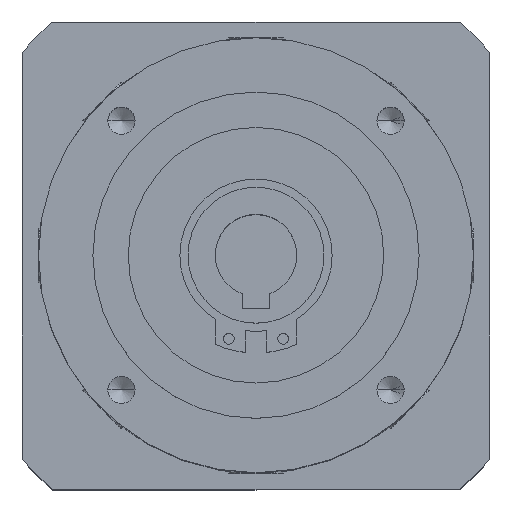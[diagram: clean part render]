
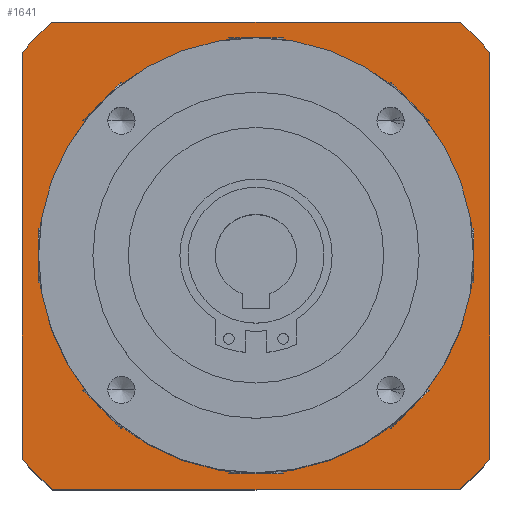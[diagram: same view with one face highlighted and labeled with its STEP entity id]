
A CAD part, top view. The second image highlights one B-rep face of the part: STEP entity #1641.
In plain terms, the highlighted planar face has unit normal (0, 0, 1).
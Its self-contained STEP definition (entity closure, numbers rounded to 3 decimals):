
#68 = ORIENTED_EDGE ( 'NONE', *, *, #42219, .F. ) ;
#505 = FACE_OUTER_BOUND ( 'NONE', #24611, .T. ) ;
#1169 = EDGE_CURVE ( 'NONE', #40757, #16266, #3411, .T. ) ;
#1170 = DIRECTION ( 'NONE',  ( 0., 1., 0. ) ) ;
#1275 = DIRECTION ( 'NONE',  ( 0., 0., 1. ) ) ;
#1596 = CARTESIAN_POINT ( 'NONE',  ( 43., -37.417, -12. ) ) ;
#1641 = ADVANCED_FACE ( 'NONE', ( #505, #29800 ), #17237, .F. ) ;
#2558 = ORIENTED_EDGE ( 'NONE', *, *, #35268, .F. ) ;
#2600 = DIRECTION ( 'NONE',  ( -1., 0., 0. ) ) ;
#3176 = DIRECTION ( 'NONE',  ( 1., 0., 0. ) ) ;
#3411 = CIRCLE ( 'NONE', #15853, 57. ) ;
#5373 = ORIENTED_EDGE ( 'NONE', *, *, #40020, .F. ) ;
#5519 = EDGE_CURVE ( 'NONE', #25553, #40757, #10660, .T. ) ;
#5565 = DIRECTION ( 'NONE',  ( 0., 0., -1. ) ) ;
#5881 = CIRCLE ( 'NONE', #40152, 57. ) ;
#5896 = VERTEX_POINT ( 'NONE', #37861 ) ;
#6137 = CARTESIAN_POINT ( 'NONE',  ( 0., 0., -12. ) ) ;
#6653 = AXIS2_PLACEMENT_3D ( 'NONE', #39194, #46584, #24599 ) ;
#7937 = EDGE_CURVE ( 'NONE', #28994, #25553, #46706, .T. ) ;
#8197 = EDGE_CURVE ( 'NONE', #10080, #22791, #22570, .T. ) ;
#8294 = CARTESIAN_POINT ( 'NONE',  ( 0., 0., -12. ) ) ;
#9804 = DIRECTION ( 'NONE',  ( 1., 0., 0. ) ) ;
#9917 = CIRCLE ( 'NONE', #20072, 36. ) ;
#10080 = VERTEX_POINT ( 'NONE', #20785 ) ;
#10610 = CARTESIAN_POINT ( 'NONE',  ( 0., 0., -12. ) ) ;
#10660 = LINE ( 'NONE', #41447, #27909 ) ;
#11857 = VERTEX_POINT ( 'NONE', #36168 ) ;
#11999 = DIRECTION ( 'NONE',  ( 1., 0., 0. ) ) ;
#13030 = ORIENTED_EDGE ( 'NONE', *, *, #46660, .F. ) ;
#13879 = AXIS2_PLACEMENT_3D ( 'NONE', #6137, #31777, #9804 ) ;
#14171 = LINE ( 'NONE', #36196, #32549 ) ;
#14313 = DIRECTION ( 'NONE',  ( 1., 0., 0. ) ) ;
#15853 = AXIS2_PLACEMENT_3D ( 'NONE', #8294, #33989, #11999 ) ;
#16266 = VERTEX_POINT ( 'NONE', #29667 ) ;
#16827 = VERTEX_POINT ( 'NONE', #37661 ) ;
#16983 = LINE ( 'NONE', #32257, #45098 ) ;
#17237 = PLANE ( 'NONE',  #6653 ) ;
#17904 = DIRECTION ( 'NONE',  ( 0., -1., 0. ) ) ;
#17926 = ORIENTED_EDGE ( 'NONE', *, *, #8197, .F. ) ;
#18319 = ORIENTED_EDGE ( 'NONE', *, *, #1169, .F. ) ;
#19100 = CIRCLE ( 'NONE', #30940, 57. ) ;
#20072 = AXIS2_PLACEMENT_3D ( 'NONE', #47146, #25149, #3176 ) ;
#20785 = CARTESIAN_POINT ( 'NONE',  ( 36., 0., -12. ) ) ;
#22091 = EDGE_LOOP ( 'NONE', ( #17926, #13030 ) ) ;
#22322 = DIRECTION ( 'NONE',  ( 1., 0., 0. ) ) ;
#22570 = CIRCLE ( 'NONE', #40963, 36. ) ;
#22791 = VERTEX_POINT ( 'NONE', #23053 ) ;
#23053 = CARTESIAN_POINT ( 'NONE',  ( -36., 0., -12. ) ) ;
#23262 = CARTESIAN_POINT ( 'NONE',  ( 0., 0., -12. ) ) ;
#24599 = DIRECTION ( 'NONE',  ( -1., 0., 0. ) ) ;
#24611 = EDGE_LOOP ( 'NONE', ( #5373, #68, #18319, #39445, #32310, #2558, #26552, #34938 ) ) ;
#25149 = DIRECTION ( 'NONE',  ( 0., 0., 1. ) ) ;
#25377 = CARTESIAN_POINT ( 'NONE',  ( -43., 37.417, -12. ) ) ;
#25553 = VERTEX_POINT ( 'NONE', #35307 ) ;
#26552 = ORIENTED_EDGE ( 'NONE', *, *, #39355, .F. ) ;
#26956 = DIRECTION ( 'NONE',  ( 1., 0., 0. ) ) ;
#27568 = CARTESIAN_POINT ( 'NONE',  ( 0., 0., -12. ) ) ;
#27899 = VERTEX_POINT ( 'NONE', #1596 ) ;
#27909 = VECTOR ( 'NONE', #1170, 1000. ) ;
#28994 = VERTEX_POINT ( 'NONE', #41110 ) ;
#29094 = LINE ( 'NONE', #29703, #38844 ) ;
#29667 = CARTESIAN_POINT ( 'NONE',  ( -37.417, 43., -12. ) ) ;
#29703 = CARTESIAN_POINT ( 'NONE',  ( 0., 43., -12. ) ) ;
#29800 = FACE_BOUND ( 'NONE', #22091, .T. ) ;
#30318 = EDGE_CURVE ( 'NONE', #11857, #27899, #14171, .T. ) ;
#30940 = AXIS2_PLACEMENT_3D ( 'NONE', #10610, #36316, #14313 ) ;
#31243 = DIRECTION ( 'NONE',  ( 1., 0., 0. ) ) ;
#31777 = DIRECTION ( 'NONE',  ( 0., 0., -1. ) ) ;
#32257 = CARTESIAN_POINT ( 'NONE',  ( 0., -43., -12. ) ) ;
#32310 = ORIENTED_EDGE ( 'NONE', *, *, #7937, .F. ) ;
#32549 = VECTOR ( 'NONE', #17904, 1000. ) ;
#33989 = DIRECTION ( 'NONE',  ( 0., 0., -1. ) ) ;
#34938 = ORIENTED_EDGE ( 'NONE', *, *, #30318, .F. ) ;
#35268 = EDGE_CURVE ( 'NONE', #5896, #28994, #16983, .T. ) ;
#35307 = CARTESIAN_POINT ( 'NONE',  ( -43., -37.417, -12. ) ) ;
#36168 = CARTESIAN_POINT ( 'NONE',  ( 43., 37.417, -12. ) ) ;
#36196 = CARTESIAN_POINT ( 'NONE',  ( 43., 36., -12. ) ) ;
#36316 = DIRECTION ( 'NONE',  ( 0., 0., -1. ) ) ;
#37661 = CARTESIAN_POINT ( 'NONE',  ( 37.417, 43., -12. ) ) ;
#37861 = CARTESIAN_POINT ( 'NONE',  ( 37.417, -43., -12. ) ) ;
#38844 = VECTOR ( 'NONE', #22322, 1000. ) ;
#39194 = CARTESIAN_POINT ( 'NONE',  ( 0., 36., -12. ) ) ;
#39355 = EDGE_CURVE ( 'NONE', #27899, #5896, #5881, .T. ) ;
#39445 = ORIENTED_EDGE ( 'NONE', *, *, #5519, .F. ) ;
#40020 = EDGE_CURVE ( 'NONE', #16827, #11857, #19100, .T. ) ;
#40152 = AXIS2_PLACEMENT_3D ( 'NONE', #27568, #5565, #31243 ) ;
#40757 = VERTEX_POINT ( 'NONE', #25377 ) ;
#40963 = AXIS2_PLACEMENT_3D ( 'NONE', #23262, #1275, #26956 ) ;
#41110 = CARTESIAN_POINT ( 'NONE',  ( -37.417, -43., -12. ) ) ;
#41447 = CARTESIAN_POINT ( 'NONE',  ( -43., 36., -12. ) ) ;
#42219 = EDGE_CURVE ( 'NONE', #16266, #16827, #29094, .T. ) ;
#45098 = VECTOR ( 'NONE', #2600, 1000. ) ;
#46584 = DIRECTION ( 'NONE',  ( 0., 0., -1. ) ) ;
#46660 = EDGE_CURVE ( 'NONE', #22791, #10080, #9917, .T. ) ;
#46706 = CIRCLE ( 'NONE', #13879, 57. ) ;
#47146 = CARTESIAN_POINT ( 'NONE',  ( 0., 0., -12. ) ) ;
